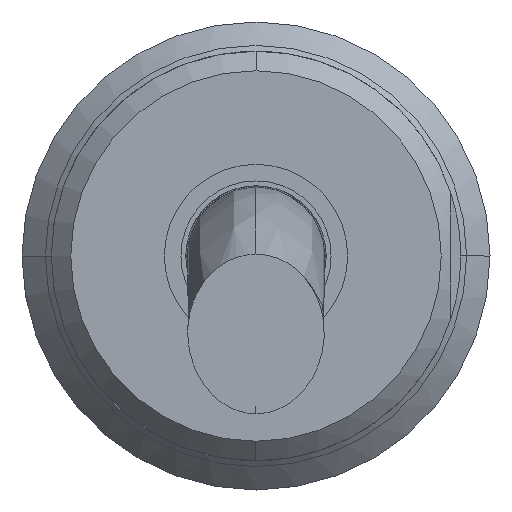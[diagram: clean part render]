
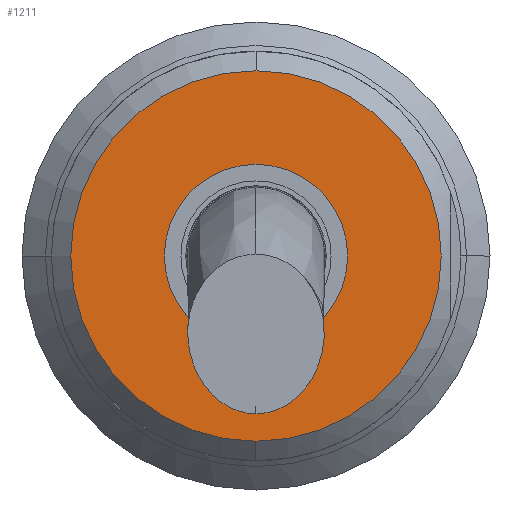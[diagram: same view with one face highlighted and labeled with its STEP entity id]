
A CAD part, left-side view. The second image highlights one B-rep face of the part: STEP entity #1211.
In plain terms, the highlighted planar face has unit normal (-1, 0, 0).
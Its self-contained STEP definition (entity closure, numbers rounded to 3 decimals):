
#187=CARTESIAN_POINT('',(-29.25,0.,0.));
#188=DIRECTION('',(-1.,0.,0.));
#189=DIRECTION('',(0.,0.,1.));
#190=AXIS2_PLACEMENT_3D('',#187,#188,#189);
#195=CARTESIAN_POINT('',(-29.25,0.,0.));
#196=DIRECTION('',(-1.,0.,0.));
#197=DIRECTION('',(0.,0.,-1.));
#198=AXIS2_PLACEMENT_3D('',#195,#196,#197);
#203=CARTESIAN_POINT('',(-29.25,0.,0.));
#204=DIRECTION('',(1.,0.,0.));
#205=DIRECTION('',(0.,0.,-1.));
#206=AXIS2_PLACEMENT_3D('',#203,#204,#205);
#211=CARTESIAN_POINT('',(-29.25,0.,0.));
#212=DIRECTION('',(1.,0.,0.));
#213=DIRECTION('',(0.,0.,1.));
#214=AXIS2_PLACEMENT_3D('',#211,#212,#213);
#1003=CARTESIAN_POINT('',(-29.25,0.,-4.75));
#1004=VERTEX_POINT('',#1003);
#1005=CARTESIAN_POINT('',(-29.25,0.,4.75));
#1006=VERTEX_POINT('',#1005);
#1007=CARTESIAN_POINT('',(-29.25,0.,-2.35));
#1008=CARTESIAN_POINT('',(-29.25,0.,2.35));
#1009=VERTEX_POINT('',#1007);
#1010=VERTEX_POINT('',#1008);
#1196=CARTESIAN_POINT('',(-29.25,0.,0.));
#1197=DIRECTION('',(1.,0.,0.));
#1198=DIRECTION('',(0.,0.,-1.));
#1199=AXIS2_PLACEMENT_3D('',#1196,#1197,#1198);
#1200=PLANE('',#1199);
#1201=ORIENTED_EDGE('',*,*,#1190,.F.);
#1202=ORIENTED_EDGE('',*,*,#1175,.F.);
#1203=EDGE_LOOP('',(#1201,#1202));
#1204=FACE_OUTER_BOUND('',#1203,.F.);
#1206=ORIENTED_EDGE('',*,*,#1205,.F.);
#1208=ORIENTED_EDGE('',*,*,#1207,.F.);
#1209=EDGE_LOOP('',(#1206,#1208));
#1210=FACE_BOUND('',#1209,.F.);
#191=CIRCLE('',#190,4.75);
#199=CIRCLE('',#198,4.75);
#207=CIRCLE('',#206,2.35);
#215=CIRCLE('',#214,2.35);
#1175=EDGE_CURVE('',#1004,#1006,#199,.T.);
#1190=EDGE_CURVE('',#1006,#1004,#191,.T.);
#1205=EDGE_CURVE('',#1009,#1010,#207,.T.);
#1207=EDGE_CURVE('',#1010,#1009,#215,.T.);
#1211=ADVANCED_FACE('',(#1204,#1210),#1200,.F.);
